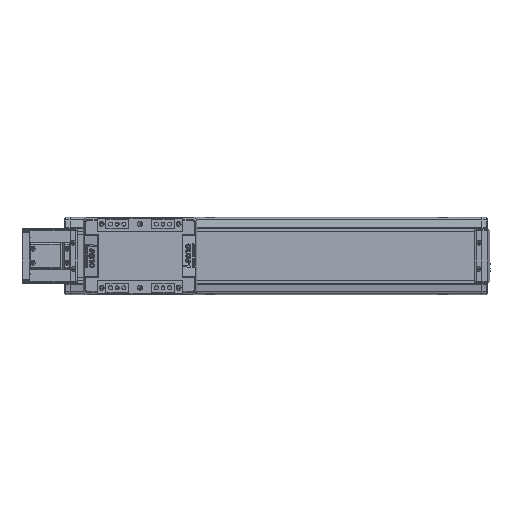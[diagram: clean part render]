
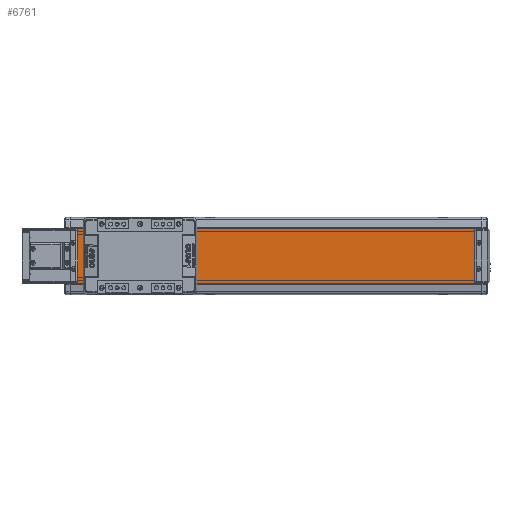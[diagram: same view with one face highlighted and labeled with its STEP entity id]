
A CAD part, top view. The second image highlights one B-rep face of the part: STEP entity #6761.
In plain terms, the highlighted planar face has unit normal (0, 0, 1).
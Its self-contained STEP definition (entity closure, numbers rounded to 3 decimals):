
#6761=ADVANCED_FACE('',(#14007),#14008,.T.);
#14007=FACE_OUTER_BOUND('',#22459,.T.);
#14008=PLANE('',#22460);
#22459=EDGE_LOOP('',(#42202,#42203,#42204,#42205));
#22460=AXIS2_PLACEMENT_3D('',#42206,#42207,#42208);
#42202=ORIENTED_EDGE('',*,*,#53272,.T.);
#42203=ORIENTED_EDGE('',*,*,#51784,.F.);
#42204=ORIENTED_EDGE('',*,*,#52189,.T.);
#42205=ORIENTED_EDGE('',*,*,#53787,.T.);
#42206=CARTESIAN_POINT('',(-580.,0.,20.15));
#42207=DIRECTION('',(0.,0.,1.0));
#42208=DIRECTION('',(0.,-1.0,0.));
#51784=EDGE_CURVE('',#64046,#64044,#64048,.T.);
#52189=EDGE_CURVE('',#64046,#64572,#64574,.T.);
#53272=EDGE_CURVE('',#65893,#64044,#65895,.T.);
#53787=EDGE_CURVE('',#64572,#65893,#66459,.T.);
#64044=VERTEX_POINT('',#81035);
#64046=VERTEX_POINT('',#81038);
#64048=LINE('',#81041,#81042);
#64572=VERTEX_POINT('',#81775);
#64574=LINE('',#81778,#81779);
#65893=VERTEX_POINT('',#83546);
#65895=LINE('',#83549,#83550);
#66459=LINE('',#84332,#84333);
#81035=CARTESIAN_POINT('',(-50.,35.,20.15));
#81038=CARTESIAN_POINT('',(-580.,35.,20.15));
#81041=CARTESIAN_POINT('',(-580.,35.,20.15));
#81042=VECTOR('',#93471,10.0);
#81775=CARTESIAN_POINT('',(-580.,-35.,20.15));
#81778=CARTESIAN_POINT('',(-580.,35.,20.15));
#81779=VECTOR('',#93963,10.0);
#83546=CARTESIAN_POINT('',(-50.,-35.,20.15));
#83549=CARTESIAN_POINT('',(-50.,35.,20.15));
#83550=VECTOR('',#95238,10.0);
#84332=CARTESIAN_POINT('',(-580.,-35.,20.15));
#84333=VECTOR('',#95712,10.0);
#93471=DIRECTION('',(1.0,0.,0.));
#93963=DIRECTION('',(0.,-1.0,0.));
#95238=DIRECTION('',(0.,1.0,0.));
#95712=DIRECTION('',(1.0,0.,0.));
